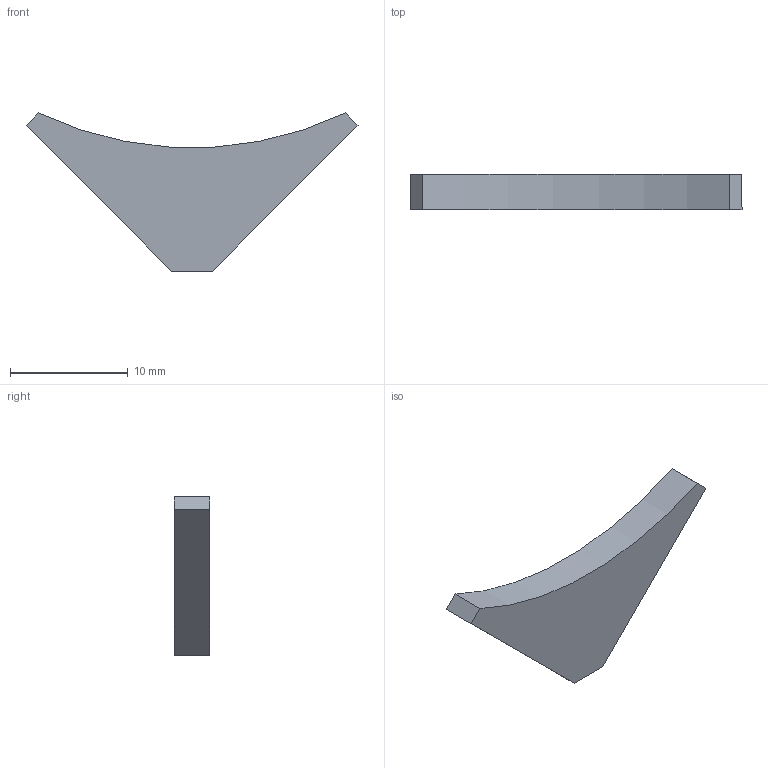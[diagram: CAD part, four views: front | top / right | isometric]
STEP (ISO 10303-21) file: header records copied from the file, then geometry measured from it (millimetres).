
FILE_DESCRIPTION (( 'STEP AP214' ), '1' );
FILE_NAME ('MONO_038-p222_01.STEP', '2025-09-30T06:48:24', ( '' ), ( '' ), 'SwSTEP 2.0', 'SolidWorks 2024', '' );
FILE_SCHEMA (( 'AUTOMOTIVE_DESIGN' ));
Length unit declared in the file: millimetre
Products named in the file (1): MONO_038-p222_01
Bounding box: 28.24 x 3 x 13.46 mm (x, y, z)
Volume: 518.8 mm3; surface area: 551.4 mm2
Topology: 1 solids, 1 shells, 8 faces, 18 edges, 12 vertices
Faces by surface type: plane 7, cylinder 1
Entity records: 247 total; most frequent: CARTESIAN_POINT 39, DIRECTION 38, ORIENTED_EDGE 36, EDGE_CURVE 18, VECTOR 16, LINE 16, VERTEX_POINT 12, AXIS2_PLACEMENT_3D 11
